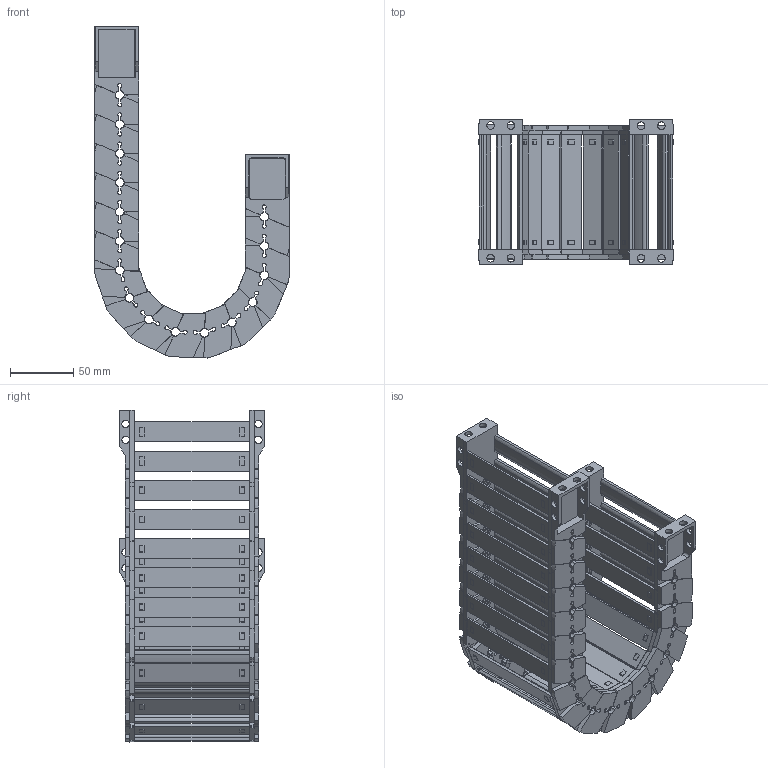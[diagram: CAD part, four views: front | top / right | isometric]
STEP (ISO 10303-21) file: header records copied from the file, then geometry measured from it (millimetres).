
FILE_DESCRIPTION(/* description */ (''),/* implementation_level */ '2;1');
FILE_NAME(/* name */ 'JY28-90-R55.stp',/* time_stamp */ '2026-06-03T16:49:23+08:00',/* author */ (''),/* organization */ (''),/* preprocessor_version */ 'ST-DEVELOPER v19.4',/* originating_system */ 'SIEMENS PLM Software NX2306.5001',/* authorisation */ '');
FILE_SCHEMA (('AP203_CONFIGURATION_CONTROLLED_3D_DESIGN_OF_MECHANICAL_PARTS_AND_ASSEMBLIES_MIM_LF { 1 0 10303 403 2 1 2}'));
Products named in the file (1): 简化图纸_objects
Bounding box: 153.11 x 114.5 x 261.45 mm (x, y, z)
Volume: 364570.8 mm3; surface area: 247197.5 mm2
Topology: 18 solids, 18 shells, 3920 faces, 10964 edges, 7130 vertices
Faces by surface type: plane 2177, cone 940, cylinder 741, bspline 60, torus 2
Full cylindrical faces by diameter (mm): 6 x24
Entity records: 135289 total; most frequent: CARTESIAN_POINT 33855, ORIENTED_EDGE 21836, DIRECTION 20876, EDGE_CURVE 10918, AXIS2_PLACEMENT_3D 7349, VERTEX_POINT 7108, LINE 6178, VECTOR 6178
